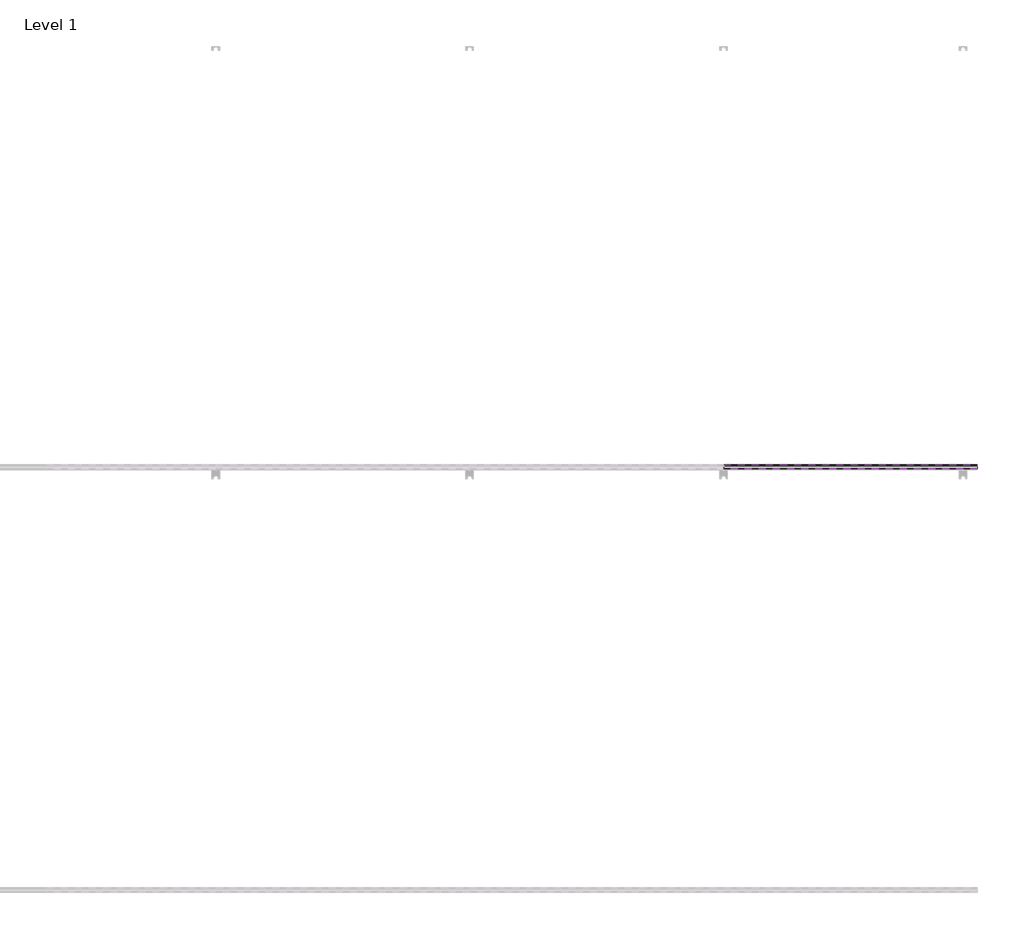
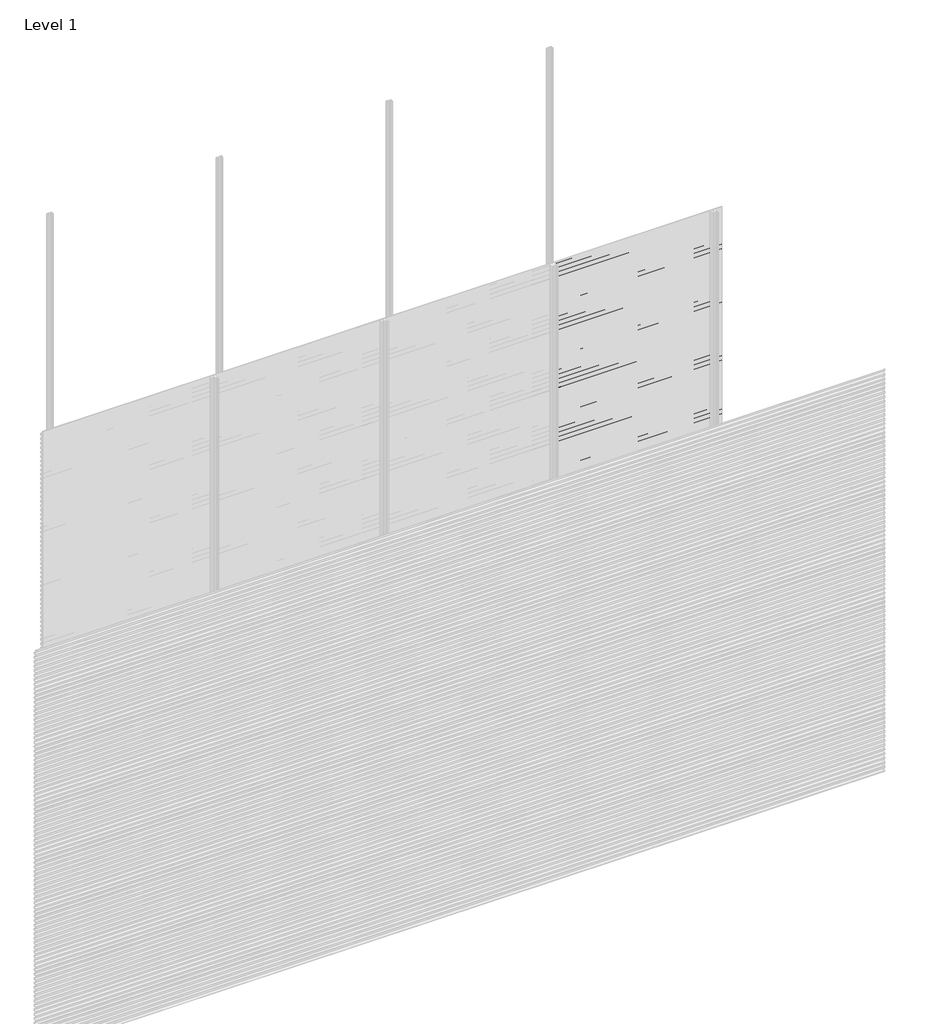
# One storey, part 62 of 77: 72 proxies.
"""IFC4 building model written with IfcOpenShell, lengths in millimetres."""

from ifc_helpers import new_model, si_unit, frame, origin, place, context, project, spatial, polyline, outline, extrude, element, save

model = new_model("IFC4")

# Units and contexts
model_context = context("Model", 3, world=origin())
ifc_project = project(units=[si_unit("LENGTHUNIT", "METRE", prefix="MILLI")], contexts=[model_context])

# Site, building, storey
site = spatial("IfcSite", under=ifc_project)
building = spatial("IfcBuilding", under=site)
storey = spatial("IfcBuildingStorey", under=building, Name="Level 1", Elevation=0.0)

# Proxies
placement = place(None, origin())
element("IfcBuildingElementProxy", 1, Name="Wall Sweeps", at=placement, inside=storey, context=model_context, shape_type="SweptSolid", body=[
    extrude(outline(polyline([(-11978.6, 408.4359887), (-11998.0, 419.6366691), (-11998.0, 432.9), (-11997.0, 432.9), (-11997.0, 420.2191057), (-11977.6, 409.0185105), (-11977.6, 395.4185105), (-11978.6, 396.9953129), (-11978.6, 402.8032062), (-11995.9773817, 394.7), (-11996.4, 395.6063078), (-11978.6, 403.9065841), (-11978.6, 408.4359887)])), frame((3600.0, 0.0, 0.0), z_axis=(1.0, 0.0, 0.0), x_axis=(0.0, 1.0, 0.0)), (0.0, 0.0, 1.0), 1200.0),
])
element("IfcBuildingElementProxy", 2, Name="Wall Sweeps", at=placement, inside=storey, context=model_context, shape_type="SweptSolid", body=[
    extrude(outline(polyline([(-11978.6, 375.1359887), (-11998.0, 386.3366691), (-11998.0, 399.6), (-11997.0, 399.6), (-11997.0, 386.9191057), (-11977.6, 375.7185105), (-11977.6, 362.1185105), (-11978.6, 363.6953129), (-11978.6, 369.5032062), (-11995.9773817, 361.4), (-11996.4, 362.3063078), (-11978.6, 370.6065841), (-11978.6, 375.1359887)])), frame((3600.0, 0.0, 0.0), z_axis=(1.0, 0.0, 0.0), x_axis=(0.0, 1.0, 0.0)), (0.0, 0.0, 1.0), 1200.0),
])
element("IfcBuildingElementProxy", 3, Name="Wall Sweeps", at=placement, inside=storey, context=model_context, shape_type="SweptSolid", body=[
    extrude(outline(polyline([(-11978.6, 341.8359887), (-11998.0, 353.0366691), (-11998.0, 366.3), (-11997.0, 366.3), (-11997.0, 353.6191057), (-11977.6, 342.4185105), (-11977.6, 328.8185105), (-11978.6, 330.3953129), (-11978.6, 336.2032062), (-11995.9773817, 328.1), (-11996.4, 329.0063078), (-11978.6, 337.3065841), (-11978.6, 341.8359887)])), frame((3600.0, 0.0, 0.0), z_axis=(1.0, 0.0, 0.0), x_axis=(0.0, 1.0, 0.0)), (0.0, 0.0, 1.0), 1200.0),
])
element("IfcBuildingElementProxy", 4, Name="Wall Sweeps", at=placement, inside=storey, context=model_context, shape_type="SweptSolid", body=[
    extrude(outline(polyline([(-11978.6, 308.5359887), (-11998.0, 319.7366691), (-11998.0, 333.0), (-11997.0, 333.0), (-11997.0, 320.3191057), (-11977.6, 309.1185105), (-11977.6, 295.5185105), (-11978.6, 297.0953129), (-11978.6, 302.9032062), (-11995.9773817, 294.8), (-11996.4, 295.7063078), (-11978.6, 304.0065841), (-11978.6, 308.5359887)])), frame((3600.0, 0.0, 0.0), z_axis=(1.0, 0.0, 0.0), x_axis=(0.0, 1.0, 0.0)), (0.0, 0.0, 1.0), 1200.0),
])
element("IfcBuildingElementProxy", 5, Name="Wall Sweeps", at=placement, inside=storey, context=model_context, shape_type="SweptSolid", body=[
    extrude(outline(polyline([(-11978.6, 275.2359887), (-11998.0, 286.4366691), (-11998.0, 299.7), (-11997.0, 299.7), (-11997.0, 287.0191057), (-11977.6, 275.8185105), (-11977.6, 262.2185105), (-11978.6, 263.7953129), (-11978.6, 269.6032062), (-11995.9773817, 261.5), (-11996.4, 262.4063078), (-11978.6, 270.7065841), (-11978.6, 275.2359887)])), frame((3600.0, 0.0, 0.0), z_axis=(1.0, 0.0, 0.0), x_axis=(0.0, 1.0, 0.0)), (0.0, 0.0, 1.0), 1200.0),
])
element("IfcBuildingElementProxy", 6, Name="Wall Sweeps", at=placement, inside=storey, context=model_context, shape_type="SweptSolid", body=[
    extrude(outline(polyline([(-11978.6, 241.9359887), (-11998.0, 253.1366691), (-11998.0, 266.4), (-11997.0, 266.4), (-11997.0, 253.7191057), (-11977.6, 242.5185105), (-11977.6, 228.9185105), (-11978.6, 230.4953129), (-11978.6, 236.3032062), (-11995.9773817, 228.2), (-11996.4, 229.1063078), (-11978.6, 237.4065841), (-11978.6, 241.9359887)])), frame((3600.0, 0.0, 0.0), z_axis=(1.0, 0.0, 0.0), x_axis=(0.0, 1.0, 0.0)), (0.0, 0.0, 1.0), 1200.0),
])
element("IfcBuildingElementProxy", 7, Name="Wall Sweeps", at=placement, inside=storey, context=model_context, shape_type="SweptSolid", body=[
    extrude(outline(polyline([(-11978.6, 208.6359887), (-11998.0, 219.8366691), (-11998.0, 233.1), (-11997.0, 233.1), (-11997.0, 220.4191057), (-11977.6, 209.2185105), (-11977.6, 195.6185105), (-11978.6, 197.1953129), (-11978.6, 203.0032062), (-11995.9773817, 194.9), (-11996.4, 195.8063078), (-11978.6, 204.1065841), (-11978.6, 208.6359887)])), frame((3600.0, 0.0, 0.0), z_axis=(1.0, 0.0, 0.0), x_axis=(0.0, 1.0, 0.0)), (0.0, 0.0, 1.0), 1200.0),
])
element("IfcBuildingElementProxy", 8, Name="Wall Sweeps", at=placement, inside=storey, context=model_context, shape_type="SweptSolid", body=[
    extrude(outline(polyline([(-11978.6, 175.3359887), (-11998.0, 186.5366691), (-11998.0, 199.8), (-11997.0, 199.8), (-11997.0, 187.1191057), (-11977.6, 175.9185105), (-11977.6, 162.3185105), (-11978.6, 163.8953129), (-11978.6, 169.7032062), (-11995.9773817, 161.6), (-11996.4, 162.5063078), (-11978.6, 170.8065841), (-11978.6, 175.3359887)])), frame((3600.0, 0.0, 0.0), z_axis=(1.0, 0.0, 0.0), x_axis=(0.0, 1.0, 0.0)), (0.0, 0.0, 1.0), 1200.0),
])
element("IfcBuildingElementProxy", 9, Name="Wall Sweeps", at=placement, inside=storey, context=model_context, shape_type="SweptSolid", body=[
    extrude(outline(polyline([(-11978.6, 142.0359887), (-11998.0, 153.2366691), (-11998.0, 166.5), (-11997.0, 166.5), (-11997.0, 153.8191057), (-11977.6, 142.6185105), (-11977.6, 129.0185105), (-11978.6, 130.5953129), (-11978.6, 136.4032062), (-11995.9773817, 128.3), (-11996.4, 129.2063078), (-11978.6, 137.5065841), (-11978.6, 142.0359887)])), frame((3600.0, 0.0, 0.0), z_axis=(1.0, 0.0, 0.0), x_axis=(0.0, 1.0, 0.0)), (0.0, 0.0, 1.0), 1200.0),
])
element("IfcBuildingElementProxy", 10, Name="Wall Sweeps", at=placement, inside=storey, context=model_context, shape_type="SweptSolid", body=[
    extrude(outline(polyline([(-11978.6, 108.7359887), (-11998.0, 119.9366691), (-11998.0, 133.2), (-11997.0, 133.2), (-11997.0, 120.5191057), (-11977.6, 109.3185105), (-11977.6, 95.7185105), (-11978.6, 97.2953129), (-11978.6, 103.1032062), (-11995.9773817, 95.0), (-11996.4, 95.9063078), (-11978.6, 104.2065841), (-11978.6, 108.7359887)])), frame((3600.0, 0.0, 0.0), z_axis=(1.0, 0.0, 0.0), x_axis=(0.0, 1.0, 0.0)), (0.0, 0.0, 1.0), 1200.0),
])
element("IfcBuildingElementProxy", 11, Name="Wall Sweeps", at=placement, inside=storey, context=model_context, shape_type="SweptSolid", body=[
    extrude(outline(polyline([(-11978.6, 75.4359887), (-11998.0, 86.6366691), (-11998.0, 99.9), (-11997.0, 99.9), (-11997.0, 87.2191057), (-11977.6, 76.0185105), (-11977.6, 62.4185105), (-11978.6, 63.9953129), (-11978.6, 69.8032062), (-11995.9773817, 61.7), (-11996.4, 62.6063078), (-11978.6, 70.9065841), (-11978.6, 75.4359887)])), frame((3600.0, 0.0, 0.0), z_axis=(1.0, 0.0, 0.0), x_axis=(0.0, 1.0, 0.0)), (0.0, 0.0, 1.0), 1200.0),
])
element("IfcBuildingElementProxy", 12, Name="Wall Sweeps", at=placement, inside=storey, context=model_context, shape_type="SweptSolid", body=[
    extrude(outline(polyline([(-11978.6, 42.1359887), (-11998.0, 53.3366691), (-11998.0, 66.6), (-11997.0, 66.6), (-11997.0, 53.9191057), (-11977.6, 42.7185105), (-11977.6, 29.1185105), (-11978.6, 30.6953129), (-11978.6, 36.5032062), (-11995.9773817, 28.4), (-11996.4, 29.3063078), (-11978.6, 37.6065841), (-11978.6, 42.1359887)])), frame((3600.0, 0.0, 0.0), z_axis=(1.0, 0.0, 0.0), x_axis=(0.0, 1.0, 0.0)), (0.0, 0.0, 1.0), 1200.0),
])
element("IfcBuildingElementProxy", 13, Name="Wall Sweeps", at=placement, inside=storey, context=model_context, shape_type="SweptSolid", body=[
    extrude(outline(polyline([(-11978.6, 8.8359887), (-11998.0, 20.0366691), (-11998.0, 33.3), (-11997.0, 33.3), (-11997.0, 20.6191057), (-11977.6, 9.4185105), (-11977.6, -4.1814895), (-11978.6, -2.6046871), (-11978.6, 3.2032062), (-11995.9773817, -4.9), (-11996.4, -3.9936922), (-11978.6, 4.3065841), (-11978.6, 8.8359887)])), frame((3600.0, 0.0, 0.0), z_axis=(1.0, 0.0, 0.0), x_axis=(0.0, 1.0, 0.0)), (0.0, 0.0, 1.0), 1200.0),
])
element("IfcBuildingElementProxy", 14, Name="Wall Sweeps", at=placement, inside=storey, context=model_context, shape_type="SweptSolid", body=[
    extrude(outline(polyline([(-11978.6, 2972.5359887), (-11998.0, 2983.7366691), (-11998.0, 2997.0), (-11997.0, 2997.0), (-11997.0, 2984.3191057), (-11977.6, 2973.1185105), (-11977.6, 2959.5185105), (-11978.6, 2961.0953129), (-11978.6, 2966.9032062), (-11995.9773817, 2958.8), (-11996.4, 2959.7063078), (-11978.6, 2968.0065841), (-11978.6, 2972.5359887)])), frame((4800.0, 0.0, 0.0), z_axis=(1.0, 0.0, 0.0), x_axis=(0.0, 1.0, 0.0)), (0.0, 0.0, 1.0), 1200.0),
])
element("IfcBuildingElementProxy", 15, Name="Wall Sweeps", at=placement, inside=storey, context=model_context, shape_type="SweptSolid", body=[
    extrude(outline(polyline([(-11978.6, 2939.2359887), (-11998.0, 2950.4366691), (-11998.0, 2963.7), (-11997.0, 2963.7), (-11997.0, 2951.0191057), (-11977.6, 2939.8185105), (-11977.6, 2926.2185105), (-11978.6, 2927.7953129), (-11978.6, 2933.6032062), (-11995.9773817, 2925.5), (-11996.4, 2926.4063078), (-11978.6, 2934.7065841), (-11978.6, 2939.2359887)])), frame((4800.0, 0.0, 0.0), z_axis=(1.0, 0.0, 0.0), x_axis=(0.0, 1.0, 0.0)), (0.0, 0.0, 1.0), 1200.0),
])
element("IfcBuildingElementProxy", 16, Name="Wall Sweeps", at=placement, inside=storey, context=model_context, shape_type="SweptSolid", body=[
    extrude(outline(polyline([(-11978.6, 2905.9359887), (-11998.0, 2917.1366691), (-11998.0, 2930.4), (-11997.0, 2930.4), (-11997.0, 2917.7191057), (-11977.6, 2906.5185105), (-11977.6, 2892.9185105), (-11978.6, 2894.4953129), (-11978.6, 2900.3032062), (-11995.9773817, 2892.2), (-11996.4, 2893.1063078), (-11978.6, 2901.4065841), (-11978.6, 2905.9359887)])), frame((4800.0, 0.0, 0.0), z_axis=(1.0, 0.0, 0.0), x_axis=(0.0, 1.0, 0.0)), (0.0, 0.0, 1.0), 1200.0),
])
element("IfcBuildingElementProxy", 17, Name="Wall Sweeps", at=placement, inside=storey, context=model_context, shape_type="SweptSolid", body=[
    extrude(outline(polyline([(-11978.6, 2872.6359887), (-11998.0, 2883.8366691), (-11998.0, 2897.1), (-11997.0, 2897.1), (-11997.0, 2884.4191057), (-11977.6, 2873.2185105), (-11977.6, 2859.6185105), (-11978.6, 2861.1953129), (-11978.6, 2867.0032062), (-11995.9773817, 2858.9), (-11996.4, 2859.8063078), (-11978.6, 2868.1065841), (-11978.6, 2872.6359887)])), frame((4800.0, 0.0, 0.0), z_axis=(1.0, 0.0, 0.0), x_axis=(0.0, 1.0, 0.0)), (0.0, 0.0, 1.0), 1200.0),
])
element("IfcBuildingElementProxy", 18, Name="Wall Sweeps", at=placement, inside=storey, context=model_context, shape_type="SweptSolid", body=[
    extrude(outline(polyline([(-11978.6, 2839.3359887), (-11998.0, 2850.5366691), (-11998.0, 2863.8), (-11997.0, 2863.8), (-11997.0, 2851.1191057), (-11977.6, 2839.9185105), (-11977.6, 2826.3185105), (-11978.6, 2827.8953129), (-11978.6, 2833.7032062), (-11995.9773817, 2825.6), (-11996.4, 2826.5063078), (-11978.6, 2834.8065841), (-11978.6, 2839.3359887)])), frame((4800.0, 0.0, 0.0), z_axis=(1.0, 0.0, 0.0), x_axis=(0.0, 1.0, 0.0)), (0.0, 0.0, 1.0), 1200.0),
])
element("IfcBuildingElementProxy", 19, Name="Wall Sweeps", at=placement, inside=storey, context=model_context, shape_type="SweptSolid", body=[
    extrude(outline(polyline([(-11978.6, 2806.0359887), (-11998.0, 2817.2366691), (-11998.0, 2830.5), (-11997.0, 2830.5), (-11997.0, 2817.8191057), (-11977.6, 2806.6185105), (-11977.6, 2793.0185105), (-11978.6, 2794.5953129), (-11978.6, 2800.4032062), (-11995.9773817, 2792.3), (-11996.4, 2793.2063078), (-11978.6, 2801.5065841), (-11978.6, 2806.0359887)])), frame((4800.0, 0.0, 0.0), z_axis=(1.0, 0.0, 0.0), x_axis=(0.0, 1.0, 0.0)), (0.0, 0.0, 1.0), 1200.0),
])
element("IfcBuildingElementProxy", 20, Name="Wall Sweeps", at=placement, inside=storey, context=model_context, shape_type="SweptSolid", body=[
    extrude(outline(polyline([(-11978.6, 2772.7359887), (-11998.0, 2783.9366691), (-11998.0, 2797.2), (-11997.0, 2797.2), (-11997.0, 2784.5191057), (-11977.6, 2773.3185105), (-11977.6, 2759.7185105), (-11978.6, 2761.2953129), (-11978.6, 2767.1032062), (-11995.9773817, 2759.0), (-11996.4, 2759.9063078), (-11978.6, 2768.2065841), (-11978.6, 2772.7359887)])), frame((4800.0, 0.0, 0.0), z_axis=(1.0, 0.0, 0.0), x_axis=(0.0, 1.0, 0.0)), (0.0, 0.0, 1.0), 1200.0),
])
element("IfcBuildingElementProxy", 21, Name="Wall Sweeps", at=placement, inside=storey, context=model_context, shape_type="SweptSolid", body=[
    extrude(outline(polyline([(-11978.6, 2739.4359887), (-11998.0, 2750.6366691), (-11998.0, 2763.9), (-11997.0, 2763.9), (-11997.0, 2751.2191057), (-11977.6, 2740.0185105), (-11977.6, 2726.4185105), (-11978.6, 2727.9953129), (-11978.6, 2733.8032062), (-11995.9773817, 2725.7), (-11996.4, 2726.6063078), (-11978.6, 2734.9065841), (-11978.6, 2739.4359887)])), frame((4800.0, 0.0, 0.0), z_axis=(1.0, 0.0, 0.0), x_axis=(0.0, 1.0, 0.0)), (0.0, 0.0, 1.0), 1200.0),
])
element("IfcBuildingElementProxy", 22, Name="Wall Sweeps", at=placement, inside=storey, context=model_context, shape_type="SweptSolid", body=[
    extrude(outline(polyline([(-11978.6, 2706.1359887), (-11998.0, 2717.3366691), (-11998.0, 2730.6), (-11997.0, 2730.6), (-11997.0, 2717.9191057), (-11977.6, 2706.7185105), (-11977.6, 2693.1185105), (-11978.6, 2694.6953129), (-11978.6, 2700.5032062), (-11995.9773817, 2692.4), (-11996.4, 2693.3063078), (-11978.6, 2701.6065841), (-11978.6, 2706.1359887)])), frame((4800.0, 0.0, 0.0), z_axis=(1.0, 0.0, 0.0), x_axis=(0.0, 1.0, 0.0)), (0.0, 0.0, 1.0), 1200.0),
])
element("IfcBuildingElementProxy", 23, Name="Wall Sweeps", at=placement, inside=storey, context=model_context, shape_type="SweptSolid", body=[
    extrude(outline(polyline([(-11978.6, 2672.8359887), (-11998.0, 2684.0366691), (-11998.0, 2697.3), (-11997.0, 2697.3), (-11997.0, 2684.6191057), (-11977.6, 2673.4185105), (-11977.6, 2659.8185105), (-11978.6, 2661.3953129), (-11978.6, 2667.2032062), (-11995.9773817, 2659.1), (-11996.4, 2660.0063078), (-11978.6, 2668.3065841), (-11978.6, 2672.8359887)])), frame((4800.0, 0.0, 0.0), z_axis=(1.0, 0.0, 0.0), x_axis=(0.0, 1.0, 0.0)), (0.0, 0.0, 1.0), 1200.0),
])
element("IfcBuildingElementProxy", 24, Name="Wall Sweeps", at=placement, inside=storey, context=model_context, shape_type="SweptSolid", body=[
    extrude(outline(polyline([(-11978.6, 2639.5359887), (-11998.0, 2650.7366691), (-11998.0, 2664.0), (-11997.0, 2664.0), (-11997.0, 2651.3191057), (-11977.6, 2640.1185105), (-11977.6, 2626.5185105), (-11978.6, 2628.0953129), (-11978.6, 2633.9032062), (-11995.9773817, 2625.8), (-11996.4, 2626.7063078), (-11978.6, 2635.0065841), (-11978.6, 2639.5359887)])), frame((4800.0, 0.0, 0.0), z_axis=(1.0, 0.0, 0.0), x_axis=(0.0, 1.0, 0.0)), (0.0, 0.0, 1.0), 1200.0),
])
element("IfcBuildingElementProxy", 25, Name="Wall Sweeps", at=placement, inside=storey, context=model_context, shape_type="SweptSolid", body=[
    extrude(outline(polyline([(-11978.6, 2606.2359887), (-11998.0, 2617.4366691), (-11998.0, 2630.7), (-11997.0, 2630.7), (-11997.0, 2618.0191057), (-11977.6, 2606.8185105), (-11977.6, 2593.2185105), (-11978.6, 2594.7953129), (-11978.6, 2600.6032062), (-11995.9773817, 2592.5), (-11996.4, 2593.4063078), (-11978.6, 2601.7065841), (-11978.6, 2606.2359887)])), frame((4800.0, 0.0, 0.0), z_axis=(1.0, 0.0, 0.0), x_axis=(0.0, 1.0, 0.0)), (0.0, 0.0, 1.0), 1200.0),
])
element("IfcBuildingElementProxy", 26, Name="Wall Sweeps", at=placement, inside=storey, context=model_context, shape_type="SweptSolid", body=[
    extrude(outline(polyline([(-11978.6, 2572.9359887), (-11998.0, 2584.1366691), (-11998.0, 2597.4), (-11997.0, 2597.4), (-11997.0, 2584.7191057), (-11977.6, 2573.5185105), (-11977.6, 2559.9185105), (-11978.6, 2561.4953129), (-11978.6, 2567.3032062), (-11995.9773817, 2559.2), (-11996.4, 2560.1063078), (-11978.6, 2568.4065841), (-11978.6, 2572.9359887)])), frame((4800.0, 0.0, 0.0), z_axis=(1.0, 0.0, 0.0), x_axis=(0.0, 1.0, 0.0)), (0.0, 0.0, 1.0), 1200.0),
])
element("IfcBuildingElementProxy", 27, Name="Wall Sweeps", at=placement, inside=storey, context=model_context, shape_type="SweptSolid", body=[
    extrude(outline(polyline([(-11978.6, 2539.6359887), (-11998.0, 2550.8366691), (-11998.0, 2564.1), (-11997.0, 2564.1), (-11997.0, 2551.4191057), (-11977.6, 2540.2185105), (-11977.6, 2526.6185105), (-11978.6, 2528.1953129), (-11978.6, 2534.0032062), (-11995.9773817, 2525.9), (-11996.4, 2526.8063078), (-11978.6, 2535.1065841), (-11978.6, 2539.6359887)])), frame((4800.0, 0.0, 0.0), z_axis=(1.0, 0.0, 0.0), x_axis=(0.0, 1.0, 0.0)), (0.0, 0.0, 1.0), 1200.0),
])
element("IfcBuildingElementProxy", 28, Name="Wall Sweeps", at=placement, inside=storey, context=model_context, shape_type="SweptSolid", body=[
    extrude(outline(polyline([(-11978.6, 2506.3359887), (-11998.0, 2517.5366691), (-11998.0, 2530.8), (-11997.0, 2530.8), (-11997.0, 2518.1191057), (-11977.6, 2506.9185105), (-11977.6, 2493.3185105), (-11978.6, 2494.8953129), (-11978.6, 2500.7032062), (-11995.9773817, 2492.6), (-11996.4, 2493.5063078), (-11978.6, 2501.8065841), (-11978.6, 2506.3359887)])), frame((4800.0, 0.0, 0.0), z_axis=(1.0, 0.0, 0.0), x_axis=(0.0, 1.0, 0.0)), (0.0, 0.0, 1.0), 1200.0),
])
element("IfcBuildingElementProxy", 29, Name="Wall Sweeps", at=placement, inside=storey, context=model_context, shape_type="SweptSolid", body=[
    extrude(outline(polyline([(-11978.6, 2473.0359887), (-11998.0, 2484.2366691), (-11998.0, 2497.5), (-11997.0, 2497.5), (-11997.0, 2484.8191057), (-11977.6, 2473.6185105), (-11977.6, 2460.0185105), (-11978.6, 2461.5953129), (-11978.6, 2467.4032062), (-11995.9773817, 2459.3), (-11996.4, 2460.2063078), (-11978.6, 2468.5065841), (-11978.6, 2473.0359887)])), frame((4800.0, 0.0, 0.0), z_axis=(1.0, 0.0, 0.0), x_axis=(0.0, 1.0, 0.0)), (0.0, 0.0, 1.0), 1200.0),
])
element("IfcBuildingElementProxy", 30, Name="Wall Sweeps", at=placement, inside=storey, context=model_context, shape_type="SweptSolid", body=[
    extrude(outline(polyline([(-11978.6, 2439.7359887), (-11998.0, 2450.9366691), (-11998.0, 2464.2), (-11997.0, 2464.2), (-11997.0, 2451.5191057), (-11977.6, 2440.3185105), (-11977.6, 2426.7185105), (-11978.6, 2428.2953129), (-11978.6, 2434.1032062), (-11995.9773817, 2426.0), (-11996.4, 2426.9063078), (-11978.6, 2435.2065841), (-11978.6, 2439.7359887)])), frame((4800.0, 0.0, 0.0), z_axis=(1.0, 0.0, 0.0), x_axis=(0.0, 1.0, 0.0)), (0.0, 0.0, 1.0), 1200.0),
])
element("IfcBuildingElementProxy", 31, Name="Wall Sweeps", at=placement, inside=storey, context=model_context, shape_type="SweptSolid", body=[
    extrude(outline(polyline([(-11978.6, 2406.4359887), (-11998.0, 2417.6366691), (-11998.0, 2430.9), (-11997.0, 2430.9), (-11997.0, 2418.2191057), (-11977.6, 2407.0185105), (-11977.6, 2393.4185105), (-11978.6, 2394.9953129), (-11978.6, 2400.8032062), (-11995.9773817, 2392.7), (-11996.4, 2393.6063078), (-11978.6, 2401.9065841), (-11978.6, 2406.4359887)])), frame((4800.0, 0.0, 0.0), z_axis=(1.0, 0.0, 0.0), x_axis=(0.0, 1.0, 0.0)), (0.0, 0.0, 1.0), 1200.0),
])
element("IfcBuildingElementProxy", 32, Name="Wall Sweeps", at=placement, inside=storey, context=model_context, shape_type="SweptSolid", body=[
    extrude(outline(polyline([(-11978.6, 2373.1359887), (-11998.0, 2384.3366691), (-11998.0, 2397.6), (-11997.0, 2397.6), (-11997.0, 2384.9191057), (-11977.6, 2373.7185105), (-11977.6, 2360.1185105), (-11978.6, 2361.6953129), (-11978.6, 2367.5032062), (-11995.9773817, 2359.4), (-11996.4, 2360.3063078), (-11978.6, 2368.6065841), (-11978.6, 2373.1359887)])), frame((4800.0, 0.0, 0.0), z_axis=(1.0, 0.0, 0.0), x_axis=(0.0, 1.0, 0.0)), (0.0, 0.0, 1.0), 1200.0),
])
element("IfcBuildingElementProxy", 33, Name="Wall Sweeps", at=placement, inside=storey, context=model_context, shape_type="SweptSolid", body=[
    extrude(outline(polyline([(-11978.6, 2339.8359887), (-11998.0, 2351.0366691), (-11998.0, 2364.3), (-11997.0, 2364.3), (-11997.0, 2351.6191057), (-11977.6, 2340.4185105), (-11977.6, 2326.8185105), (-11978.6, 2328.3953129), (-11978.6, 2334.2032062), (-11995.9773817, 2326.1), (-11996.4, 2327.0063078), (-11978.6, 2335.3065841), (-11978.6, 2339.8359887)])), frame((4800.0, 0.0, 0.0), z_axis=(1.0, 0.0, 0.0), x_axis=(0.0, 1.0, 0.0)), (0.0, 0.0, 1.0), 1200.0),
])
element("IfcBuildingElementProxy", 34, Name="Wall Sweeps", at=placement, inside=storey, context=model_context, shape_type="SweptSolid", body=[
    extrude(outline(polyline([(-11978.6, 2306.5359887), (-11998.0, 2317.7366691), (-11998.0, 2331.0), (-11997.0, 2331.0), (-11997.0, 2318.3191057), (-11977.6, 2307.1185105), (-11977.6, 2293.5185105), (-11978.6, 2295.0953129), (-11978.6, 2300.9032062), (-11995.9773817, 2292.8), (-11996.4, 2293.7063078), (-11978.6, 2302.0065841), (-11978.6, 2306.5359887)])), frame((4800.0, 0.0, 0.0), z_axis=(1.0, 0.0, 0.0), x_axis=(0.0, 1.0, 0.0)), (0.0, 0.0, 1.0), 1200.0),
])
element("IfcBuildingElementProxy", 35, Name="Wall Sweeps", at=placement, inside=storey, context=model_context, shape_type="SweptSolid", body=[
    extrude(outline(polyline([(-11978.6, 2273.2359887), (-11998.0, 2284.4366691), (-11998.0, 2297.7), (-11997.0, 2297.7), (-11997.0, 2285.0191057), (-11977.6, 2273.8185105), (-11977.6, 2260.2185105), (-11978.6, 2261.7953129), (-11978.6, 2267.6032062), (-11995.9773817, 2259.5), (-11996.4, 2260.4063078), (-11978.6, 2268.7065841), (-11978.6, 2273.2359887)])), frame((4800.0, 0.0, 0.0), z_axis=(1.0, 0.0, 0.0), x_axis=(0.0, 1.0, 0.0)), (0.0, 0.0, 1.0), 1200.0),
])
element("IfcBuildingElementProxy", 36, Name="Wall Sweeps", at=placement, inside=storey, context=model_context, shape_type="SweptSolid", body=[
    extrude(outline(polyline([(-11978.6, 2239.9359887), (-11998.0, 2251.1366691), (-11998.0, 2264.4), (-11997.0, 2264.4), (-11997.0, 2251.7191057), (-11977.6, 2240.5185105), (-11977.6, 2226.9185105), (-11978.6, 2228.4953129), (-11978.6, 2234.3032062), (-11995.9773817, 2226.2), (-11996.4, 2227.1063078), (-11978.6, 2235.4065841), (-11978.6, 2239.9359887)])), frame((4800.0, 0.0, 0.0), z_axis=(1.0, 0.0, 0.0), x_axis=(0.0, 1.0, 0.0)), (0.0, 0.0, 1.0), 1200.0),
])
element("IfcBuildingElementProxy", 37, Name="Wall Sweeps", at=placement, inside=storey, context=model_context, shape_type="SweptSolid", body=[
    extrude(outline(polyline([(-11978.6, 2206.6359887), (-11998.0, 2217.8366691), (-11998.0, 2231.1), (-11997.0, 2231.1), (-11997.0, 2218.4191057), (-11977.6, 2207.2185105), (-11977.6, 2193.6185105), (-11978.6, 2195.1953129), (-11978.6, 2201.0032062), (-11995.9773817, 2192.9), (-11996.4, 2193.8063078), (-11978.6, 2202.1065841), (-11978.6, 2206.6359887)])), frame((4800.0, 0.0, 0.0), z_axis=(1.0, 0.0, 0.0), x_axis=(0.0, 1.0, 0.0)), (0.0, 0.0, 1.0), 1200.0),
])
element("IfcBuildingElementProxy", 38, Name="Wall Sweeps", at=placement, inside=storey, context=model_context, shape_type="SweptSolid", body=[
    extrude(outline(polyline([(-11978.6, 2173.3359887), (-11998.0, 2184.5366691), (-11998.0, 2197.8), (-11997.0, 2197.8), (-11997.0, 2185.1191057), (-11977.6, 2173.9185105), (-11977.6, 2160.3185105), (-11978.6, 2161.8953129), (-11978.6, 2167.7032062), (-11995.9773817, 2159.6), (-11996.4, 2160.5063078), (-11978.6, 2168.8065841), (-11978.6, 2173.3359887)])), frame((4800.0, 0.0, 0.0), z_axis=(1.0, 0.0, 0.0), x_axis=(0.0, 1.0, 0.0)), (0.0, 0.0, 1.0), 1200.0),
])
element("IfcBuildingElementProxy", 39, Name="Wall Sweeps", at=placement, inside=storey, context=model_context, shape_type="SweptSolid", body=[
    extrude(outline(polyline([(-11978.6, 2140.0359887), (-11998.0, 2151.2366691), (-11998.0, 2164.5), (-11997.0, 2164.5), (-11997.0, 2151.8191057), (-11977.6, 2140.6185105), (-11977.6, 2127.0185105), (-11978.6, 2128.5953129), (-11978.6, 2134.4032062), (-11995.9773817, 2126.3), (-11996.4, 2127.2063078), (-11978.6, 2135.5065841), (-11978.6, 2140.0359887)])), frame((4800.0, 0.0, 0.0), z_axis=(1.0, 0.0, 0.0), x_axis=(0.0, 1.0, 0.0)), (0.0, 0.0, 1.0), 1200.0),
])
element("IfcBuildingElementProxy", 40, Name="Wall Sweeps", at=placement, inside=storey, context=model_context, shape_type="SweptSolid", body=[
    extrude(outline(polyline([(-11978.6, 2106.7359887), (-11998.0, 2117.9366691), (-11998.0, 2131.2), (-11997.0, 2131.2), (-11997.0, 2118.5191057), (-11977.6, 2107.3185105), (-11977.6, 2093.7185105), (-11978.6, 2095.2953129), (-11978.6, 2101.1032062), (-11995.9773817, 2093.0), (-11996.4, 2093.9063078), (-11978.6, 2102.2065841), (-11978.6, 2106.7359887)])), frame((4800.0, 0.0, 0.0), z_axis=(1.0, 0.0, 0.0), x_axis=(0.0, 1.0, 0.0)), (0.0, 0.0, 1.0), 1200.0),
])
element("IfcBuildingElementProxy", 41, Name="Wall Sweeps", at=placement, inside=storey, context=model_context, shape_type="SweptSolid", body=[
    extrude(outline(polyline([(-11978.6, 2073.4359887), (-11998.0, 2084.6366691), (-11998.0, 2097.9), (-11997.0, 2097.9), (-11997.0, 2085.2191057), (-11977.6, 2074.0185105), (-11977.6, 2060.4185105), (-11978.6, 2061.9953129), (-11978.6, 2067.8032062), (-11995.9773817, 2059.7), (-11996.4, 2060.6063078), (-11978.6, 2068.9065841), (-11978.6, 2073.4359887)])), frame((4800.0, 0.0, 0.0), z_axis=(1.0, 0.0, 0.0), x_axis=(0.0, 1.0, 0.0)), (0.0, 0.0, 1.0), 1200.0),
])
element("IfcBuildingElementProxy", 42, Name="Wall Sweeps", at=placement, inside=storey, context=model_context, shape_type="SweptSolid", body=[
    extrude(outline(polyline([(-11978.6, 2040.1359887), (-11998.0, 2051.3366691), (-11998.0, 2064.6), (-11997.0, 2064.6), (-11997.0, 2051.9191057), (-11977.6, 2040.7185105), (-11977.6, 2027.1185105), (-11978.6, 2028.6953129), (-11978.6, 2034.5032062), (-11995.9773817, 2026.4), (-11996.4, 2027.3063078), (-11978.6, 2035.6065841), (-11978.6, 2040.1359887)])), frame((4800.0, 0.0, 0.0), z_axis=(1.0, 0.0, 0.0), x_axis=(0.0, 1.0, 0.0)), (0.0, 0.0, 1.0), 1200.0),
])
element("IfcBuildingElementProxy", 43, Name="Wall Sweeps", at=placement, inside=storey, context=model_context, shape_type="SweptSolid", body=[
    extrude(outline(polyline([(-11978.6, 2006.8359887), (-11998.0, 2018.0366691), (-11998.0, 2031.3), (-11997.0, 2031.3), (-11997.0, 2018.6191057), (-11977.6, 2007.4185105), (-11977.6, 1993.8185105), (-11978.6, 1995.3953129), (-11978.6, 2001.2032062), (-11995.9773817, 1993.1), (-11996.4, 1994.0063078), (-11978.6, 2002.3065841), (-11978.6, 2006.8359887)])), frame((4800.0, 0.0, 0.0), z_axis=(1.0, 0.0, 0.0), x_axis=(0.0, 1.0, 0.0)), (0.0, 0.0, 1.0), 1200.0),
])
element("IfcBuildingElementProxy", 44, Name="Wall Sweeps", at=placement, inside=storey, context=model_context, shape_type="SweptSolid", body=[
    extrude(outline(polyline([(-11978.6, 1973.5359887), (-11998.0, 1984.7366691), (-11998.0, 1998.0), (-11997.0, 1998.0), (-11997.0, 1985.3191057), (-11977.6, 1974.1185105), (-11977.6, 1960.5185105), (-11978.6, 1962.0953129), (-11978.6, 1967.9032062), (-11995.9773817, 1959.8), (-11996.4, 1960.7063078), (-11978.6, 1969.0065841), (-11978.6, 1973.5359887)])), frame((4800.0, 0.0, 0.0), z_axis=(1.0, 0.0, 0.0), x_axis=(0.0, 1.0, 0.0)), (0.0, 0.0, 1.0), 1200.0),
])
element("IfcBuildingElementProxy", 45, Name="Wall Sweeps", at=placement, inside=storey, context=model_context, shape_type="SweptSolid", body=[
    extrude(outline(polyline([(-11978.6, 1940.2359887), (-11998.0, 1951.4366691), (-11998.0, 1964.7), (-11997.0, 1964.7), (-11997.0, 1952.0191057), (-11977.6, 1940.8185105), (-11977.6, 1927.2185105), (-11978.6, 1928.7953129), (-11978.6, 1934.6032062), (-11995.9773817, 1926.5), (-11996.4, 1927.4063078), (-11978.6, 1935.7065841), (-11978.6, 1940.2359887)])), frame((4800.0, 0.0, 0.0), z_axis=(1.0, 0.0, 0.0), x_axis=(0.0, 1.0, 0.0)), (0.0, 0.0, 1.0), 1200.0),
])
element("IfcBuildingElementProxy", 46, Name="Wall Sweeps", at=placement, inside=storey, context=model_context, shape_type="SweptSolid", body=[
    extrude(outline(polyline([(-11978.6, 1906.9359887), (-11998.0, 1918.1366691), (-11998.0, 1931.4), (-11997.0, 1931.4), (-11997.0, 1918.7191057), (-11977.6, 1907.5185105), (-11977.6, 1893.9185105), (-11978.6, 1895.4953129), (-11978.6, 1901.3032062), (-11995.9773817, 1893.2), (-11996.4, 1894.1063078), (-11978.6, 1902.4065841), (-11978.6, 1906.9359887)])), frame((4800.0, 0.0, 0.0), z_axis=(1.0, 0.0, 0.0), x_axis=(0.0, 1.0, 0.0)), (0.0, 0.0, 1.0), 1200.0),
])
element("IfcBuildingElementProxy", 47, Name="Wall Sweeps", at=placement, inside=storey, context=model_context, shape_type="SweptSolid", body=[
    extrude(outline(polyline([(-11978.6, 1873.6359887), (-11998.0, 1884.8366691), (-11998.0, 1898.1), (-11997.0, 1898.1), (-11997.0, 1885.4191057), (-11977.6, 1874.2185105), (-11977.6, 1860.6185105), (-11978.6, 1862.1953129), (-11978.6, 1868.0032062), (-11995.9773817, 1859.9), (-11996.4, 1860.8063078), (-11978.6, 1869.1065841), (-11978.6, 1873.6359887)])), frame((4800.0, 0.0, 0.0), z_axis=(1.0, 0.0, 0.0), x_axis=(0.0, 1.0, 0.0)), (0.0, 0.0, 1.0), 1200.0),
])
element("IfcBuildingElementProxy", 48, Name="Wall Sweeps", at=placement, inside=storey, context=model_context, shape_type="SweptSolid", body=[
    extrude(outline(polyline([(-11978.6, 1840.3359887), (-11998.0, 1851.5366691), (-11998.0, 1864.8), (-11997.0, 1864.8), (-11997.0, 1852.1191057), (-11977.6, 1840.9185105), (-11977.6, 1827.3185105), (-11978.6, 1828.8953129), (-11978.6, 1834.7032062), (-11995.9773817, 1826.6), (-11996.4, 1827.5063078), (-11978.6, 1835.8065841), (-11978.6, 1840.3359887)])), frame((4800.0, 0.0, 0.0), z_axis=(1.0, 0.0, 0.0), x_axis=(0.0, 1.0, 0.0)), (0.0, 0.0, 1.0), 1200.0),
])
element("IfcBuildingElementProxy", 49, Name="Wall Sweeps", at=placement, inside=storey, context=model_context, shape_type="SweptSolid", body=[
    extrude(outline(polyline([(-11978.6, 1807.0359887), (-11998.0, 1818.2366691), (-11998.0, 1831.5), (-11997.0, 1831.5), (-11997.0, 1818.8191057), (-11977.6, 1807.6185105), (-11977.6, 1794.0185105), (-11978.6, 1795.5953129), (-11978.6, 1801.4032062), (-11995.9773817, 1793.3), (-11996.4, 1794.2063078), (-11978.6, 1802.5065841), (-11978.6, 1807.0359887)])), frame((4800.0, 0.0, 0.0), z_axis=(1.0, 0.0, 0.0), x_axis=(0.0, 1.0, 0.0)), (0.0, 0.0, 1.0), 1200.0),
])
element("IfcBuildingElementProxy", 50, Name="Wall Sweeps", at=placement, inside=storey, context=model_context, shape_type="SweptSolid", body=[
    extrude(outline(polyline([(-11978.6, 1773.7359887), (-11998.0, 1784.9366691), (-11998.0, 1798.2), (-11997.0, 1798.2), (-11997.0, 1785.5191057), (-11977.6, 1774.3185105), (-11977.6, 1760.7185105), (-11978.6, 1762.2953129), (-11978.6, 1768.1032062), (-11995.9773817, 1760.0), (-11996.4, 1760.9063078), (-11978.6, 1769.2065841), (-11978.6, 1773.7359887)])), frame((4800.0, 0.0, 0.0), z_axis=(1.0, 0.0, 0.0), x_axis=(0.0, 1.0, 0.0)), (0.0, 0.0, 1.0), 1200.0),
])
element("IfcBuildingElementProxy", 51, Name="Wall Sweeps", at=placement, inside=storey, context=model_context, shape_type="SweptSolid", body=[
    extrude(outline(polyline([(-11978.6, 1740.4359887), (-11998.0, 1751.6366691), (-11998.0, 1764.9), (-11997.0, 1764.9), (-11997.0, 1752.2191057), (-11977.6, 1741.0185105), (-11977.6, 1727.4185105), (-11978.6, 1728.9953129), (-11978.6, 1734.8032062), (-11995.9773817, 1726.7), (-11996.4, 1727.6063078), (-11978.6, 1735.9065841), (-11978.6, 1740.4359887)])), frame((4800.0, 0.0, 0.0), z_axis=(1.0, 0.0, 0.0), x_axis=(0.0, 1.0, 0.0)), (0.0, 0.0, 1.0), 1200.0),
])
element("IfcBuildingElementProxy", 52, Name="Wall Sweeps", at=placement, inside=storey, context=model_context, shape_type="SweptSolid", body=[
    extrude(outline(polyline([(-11978.6, 1707.1359887), (-11998.0, 1718.3366691), (-11998.0, 1731.6), (-11997.0, 1731.6), (-11997.0, 1718.9191057), (-11977.6, 1707.7185105), (-11977.6, 1694.1185105), (-11978.6, 1695.6953129), (-11978.6, 1701.5032062), (-11995.9773817, 1693.4), (-11996.4, 1694.3063078), (-11978.6, 1702.6065841), (-11978.6, 1707.1359887)])), frame((4800.0, 0.0, 0.0), z_axis=(1.0, 0.0, 0.0), x_axis=(0.0, 1.0, 0.0)), (0.0, 0.0, 1.0), 1200.0),
])
element("IfcBuildingElementProxy", 53, Name="Wall Sweeps", at=placement, inside=storey, context=model_context, shape_type="SweptSolid", body=[
    extrude(outline(polyline([(-11978.6, 1673.8359887), (-11998.0, 1685.0366691), (-11998.0, 1698.3), (-11997.0, 1698.3), (-11997.0, 1685.6191057), (-11977.6, 1674.4185105), (-11977.6, 1660.8185105), (-11978.6, 1662.3953129), (-11978.6, 1668.2032062), (-11995.9773817, 1660.1), (-11996.4, 1661.0063078), (-11978.6, 1669.3065841), (-11978.6, 1673.8359887)])), frame((4800.0, 0.0, 0.0), z_axis=(1.0, 0.0, 0.0), x_axis=(0.0, 1.0, 0.0)), (0.0, 0.0, 1.0), 1200.0),
])
element("IfcBuildingElementProxy", 54, Name="Wall Sweeps", at=placement, inside=storey, context=model_context, shape_type="SweptSolid", body=[
    extrude(outline(polyline([(-11978.6, 1640.5359887), (-11998.0, 1651.7366691), (-11998.0, 1665.0), (-11997.0, 1665.0), (-11997.0, 1652.3191057), (-11977.6, 1641.1185105), (-11977.6, 1627.5185105), (-11978.6, 1629.0953129), (-11978.6, 1634.9032062), (-11995.9773817, 1626.8), (-11996.4, 1627.7063078), (-11978.6, 1636.0065841), (-11978.6, 1640.5359887)])), frame((4800.0, 0.0, 0.0), z_axis=(1.0, 0.0, 0.0), x_axis=(0.0, 1.0, 0.0)), (0.0, 0.0, 1.0), 1200.0),
])
element("IfcBuildingElementProxy", 55, Name="Wall Sweeps", at=placement, inside=storey, context=model_context, shape_type="SweptSolid", body=[
    extrude(outline(polyline([(-11978.6, 1607.2359887), (-11998.0, 1618.4366691), (-11998.0, 1631.7), (-11997.0, 1631.7), (-11997.0, 1619.0191057), (-11977.6, 1607.8185105), (-11977.6, 1594.2185105), (-11978.6, 1595.7953129), (-11978.6, 1601.6032062), (-11995.9773817, 1593.5), (-11996.4, 1594.4063078), (-11978.6, 1602.7065841), (-11978.6, 1607.2359887)])), frame((4800.0, 0.0, 0.0), z_axis=(1.0, 0.0, 0.0), x_axis=(0.0, 1.0, 0.0)), (0.0, 0.0, 1.0), 1200.0),
])
element("IfcBuildingElementProxy", 56, Name="Wall Sweeps", at=placement, inside=storey, context=model_context, shape_type="SweptSolid", body=[
    extrude(outline(polyline([(-11978.6, 1573.9359887), (-11998.0, 1585.1366691), (-11998.0, 1598.4), (-11997.0, 1598.4), (-11997.0, 1585.7191057), (-11977.6, 1574.5185105), (-11977.6, 1560.9185105), (-11978.6, 1562.4953129), (-11978.6, 1568.3032062), (-11995.9773817, 1560.2), (-11996.4, 1561.1063078), (-11978.6, 1569.4065841), (-11978.6, 1573.9359887)])), frame((4800.0, 0.0, 0.0), z_axis=(1.0, 0.0, 0.0), x_axis=(0.0, 1.0, 0.0)), (0.0, 0.0, 1.0), 1200.0),
])
element("IfcBuildingElementProxy", 57, Name="Wall Sweeps", at=placement, inside=storey, context=model_context, shape_type="SweptSolid", body=[
    extrude(outline(polyline([(-11978.6, 1540.6359887), (-11998.0, 1551.8366691), (-11998.0, 1565.1), (-11997.0, 1565.1), (-11997.0, 1552.4191057), (-11977.6, 1541.2185105), (-11977.6, 1527.6185105), (-11978.6, 1529.1953129), (-11978.6, 1535.0032062), (-11995.9773817, 1526.9), (-11996.4, 1527.8063078), (-11978.6, 1536.1065841), (-11978.6, 1540.6359887)])), frame((4800.0, 0.0, 0.0), z_axis=(1.0, 0.0, 0.0), x_axis=(0.0, 1.0, 0.0)), (0.0, 0.0, 1.0), 1200.0),
])
element("IfcBuildingElementProxy", 58, Name="Wall Sweeps", at=placement, inside=storey, context=model_context, shape_type="SweptSolid", body=[
    extrude(outline(polyline([(-11978.6, 1507.3359887), (-11998.0, 1518.5366691), (-11998.0, 1531.8), (-11997.0, 1531.8), (-11997.0, 1519.1191057), (-11977.6, 1507.9185105), (-11977.6, 1494.3185105), (-11978.6, 1495.8953129), (-11978.6, 1501.7032062), (-11995.9773817, 1493.6), (-11996.4, 1494.5063078), (-11978.6, 1502.8065841), (-11978.6, 1507.3359887)])), frame((4800.0, 0.0, 0.0), z_axis=(1.0, 0.0, 0.0), x_axis=(0.0, 1.0, 0.0)), (0.0, 0.0, 1.0), 1200.0),
])
element("IfcBuildingElementProxy", 59, Name="Wall Sweeps", at=placement, inside=storey, context=model_context, shape_type="SweptSolid", body=[
    extrude(outline(polyline([(-11978.6, 1474.0359887), (-11998.0, 1485.2366691), (-11998.0, 1498.5), (-11997.0, 1498.5), (-11997.0, 1485.8191057), (-11977.6, 1474.6185105), (-11977.6, 1461.0185105), (-11978.6, 1462.5953129), (-11978.6, 1468.4032062), (-11995.9773817, 1460.3), (-11996.4, 1461.2063078), (-11978.6, 1469.5065841), (-11978.6, 1474.0359887)])), frame((4800.0, 0.0, 0.0), z_axis=(1.0, 0.0, 0.0), x_axis=(0.0, 1.0, 0.0)), (0.0, 0.0, 1.0), 1200.0),
])
element("IfcBuildingElementProxy", 60, Name="Wall Sweeps", at=placement, inside=storey, context=model_context, shape_type="SweptSolid", body=[
    extrude(outline(polyline([(-11978.6, 1440.7359887), (-11998.0, 1451.9366691), (-11998.0, 1465.2), (-11997.0, 1465.2), (-11997.0, 1452.5191057), (-11977.6, 1441.3185105), (-11977.6, 1427.7185105), (-11978.6, 1429.2953129), (-11978.6, 1435.1032062), (-11995.9773817, 1427.0), (-11996.4, 1427.9063078), (-11978.6, 1436.2065841), (-11978.6, 1440.7359887)])), frame((4800.0, 0.0, 0.0), z_axis=(1.0, 0.0, 0.0), x_axis=(0.0, 1.0, 0.0)), (0.0, 0.0, 1.0), 1200.0),
])
element("IfcBuildingElementProxy", 61, Name="Wall Sweeps", at=placement, inside=storey, context=model_context, shape_type="SweptSolid", body=[
    extrude(outline(polyline([(-11978.6, 1407.4359887), (-11998.0, 1418.6366691), (-11998.0, 1431.9), (-11997.0, 1431.9), (-11997.0, 1419.2191057), (-11977.6, 1408.0185105), (-11977.6, 1394.4185105), (-11978.6, 1395.9953129), (-11978.6, 1401.8032062), (-11995.9773817, 1393.7), (-11996.4, 1394.6063078), (-11978.6, 1402.9065841), (-11978.6, 1407.4359887)])), frame((4800.0, 0.0, 0.0), z_axis=(1.0, 0.0, 0.0), x_axis=(0.0, 1.0, 0.0)), (0.0, 0.0, 1.0), 1200.0),
])
element("IfcBuildingElementProxy", 62, Name="Wall Sweeps", at=placement, inside=storey, context=model_context, shape_type="SweptSolid", body=[
    extrude(outline(polyline([(-11978.6, 1374.1359887), (-11998.0, 1385.3366691), (-11998.0, 1398.6), (-11997.0, 1398.6), (-11997.0, 1385.9191057), (-11977.6, 1374.7185105), (-11977.6, 1361.1185105), (-11978.6, 1362.6953129), (-11978.6, 1368.5032062), (-11995.9773817, 1360.4), (-11996.4, 1361.3063078), (-11978.6, 1369.6065841), (-11978.6, 1374.1359887)])), frame((4800.0, 0.0, 0.0), z_axis=(1.0, 0.0, 0.0), x_axis=(0.0, 1.0, 0.0)), (0.0, 0.0, 1.0), 1200.0),
])
element("IfcBuildingElementProxy", 63, Name="Wall Sweeps", at=placement, inside=storey, context=model_context, shape_type="SweptSolid", body=[
    extrude(outline(polyline([(-11978.6, 1340.8359887), (-11998.0, 1352.0366691), (-11998.0, 1365.3), (-11997.0, 1365.3), (-11997.0, 1352.6191057), (-11977.6, 1341.4185105), (-11977.6, 1327.8185105), (-11978.6, 1329.3953129), (-11978.6, 1335.2032062), (-11995.9773817, 1327.1), (-11996.4, 1328.0063078), (-11978.6, 1336.3065841), (-11978.6, 1340.8359887)])), frame((4800.0, 0.0, 0.0), z_axis=(1.0, 0.0, 0.0), x_axis=(0.0, 1.0, 0.0)), (0.0, 0.0, 1.0), 1200.0),
])
element("IfcBuildingElementProxy", 64, Name="Wall Sweeps", at=placement, inside=storey, context=model_context, shape_type="SweptSolid", body=[
    extrude(outline(polyline([(-11978.6, 1307.5359887), (-11998.0, 1318.7366691), (-11998.0, 1332.0), (-11997.0, 1332.0), (-11997.0, 1319.3191057), (-11977.6, 1308.1185105), (-11977.6, 1294.5185105), (-11978.6, 1296.0953129), (-11978.6, 1301.9032062), (-11995.9773817, 1293.8), (-11996.4, 1294.7063078), (-11978.6, 1303.0065841), (-11978.6, 1307.5359887)])), frame((4800.0, 0.0, 0.0), z_axis=(1.0, 0.0, 0.0), x_axis=(0.0, 1.0, 0.0)), (0.0, 0.0, 1.0), 1200.0),
])
element("IfcBuildingElementProxy", 65, Name="Wall Sweeps", at=placement, inside=storey, context=model_context, shape_type="SweptSolid", body=[
    extrude(outline(polyline([(-11978.6, 1274.2359887), (-11998.0, 1285.4366691), (-11998.0, 1298.7), (-11997.0, 1298.7), (-11997.0, 1286.0191057), (-11977.6, 1274.8185105), (-11977.6, 1261.2185105), (-11978.6, 1262.7953129), (-11978.6, 1268.6032062), (-11995.9773817, 1260.5), (-11996.4, 1261.4063078), (-11978.6, 1269.7065841), (-11978.6, 1274.2359887)])), frame((4800.0, 0.0, 0.0), z_axis=(1.0, 0.0, 0.0), x_axis=(0.0, 1.0, 0.0)), (0.0, 0.0, 1.0), 1200.0),
])
element("IfcBuildingElementProxy", 66, Name="Wall Sweeps", at=placement, inside=storey, context=model_context, shape_type="SweptSolid", body=[
    extrude(outline(polyline([(-11978.6, 1240.9359887), (-11998.0, 1252.1366691), (-11998.0, 1265.4), (-11997.0, 1265.4), (-11997.0, 1252.7191057), (-11977.6, 1241.5185105), (-11977.6, 1227.9185105), (-11978.6, 1229.4953129), (-11978.6, 1235.3032062), (-11995.9773817, 1227.2), (-11996.4, 1228.1063078), (-11978.6, 1236.4065841), (-11978.6, 1240.9359887)])), frame((4800.0, 0.0, 0.0), z_axis=(1.0, 0.0, 0.0), x_axis=(0.0, 1.0, 0.0)), (0.0, 0.0, 1.0), 1200.0),
])
element("IfcBuildingElementProxy", 67, Name="Wall Sweeps", at=placement, inside=storey, context=model_context, shape_type="SweptSolid", body=[
    extrude(outline(polyline([(-11978.6, 1207.6359887), (-11998.0, 1218.8366691), (-11998.0, 1232.1), (-11997.0, 1232.1), (-11997.0, 1219.4191057), (-11977.6, 1208.2185105), (-11977.6, 1194.6185105), (-11978.6, 1196.1953129), (-11978.6, 1202.0032062), (-11995.9773817, 1193.9), (-11996.4, 1194.8063078), (-11978.6, 1203.1065841), (-11978.6, 1207.6359887)])), frame((4800.0, 0.0, 0.0), z_axis=(1.0, 0.0, 0.0), x_axis=(0.0, 1.0, 0.0)), (0.0, 0.0, 1.0), 1200.0),
])
element("IfcBuildingElementProxy", 68, Name="Wall Sweeps", at=placement, inside=storey, context=model_context, shape_type="SweptSolid", body=[
    extrude(outline(polyline([(-11978.6, 1174.3359887), (-11998.0, 1185.5366691), (-11998.0, 1198.8), (-11997.0, 1198.8), (-11997.0, 1186.1191057), (-11977.6, 1174.9185105), (-11977.6, 1161.3185105), (-11978.6, 1162.8953129), (-11978.6, 1168.7032062), (-11995.9773817, 1160.6), (-11996.4, 1161.5063078), (-11978.6, 1169.8065841), (-11978.6, 1174.3359887)])), frame((4800.0, 0.0, 0.0), z_axis=(1.0, 0.0, 0.0), x_axis=(0.0, 1.0, 0.0)), (0.0, 0.0, 1.0), 1200.0),
])
element("IfcBuildingElementProxy", 69, Name="Wall Sweeps", at=placement, inside=storey, context=model_context, shape_type="SweptSolid", body=[
    extrude(outline(polyline([(-11978.6, 1141.0359887), (-11998.0, 1152.2366691), (-11998.0, 1165.5), (-11997.0, 1165.5), (-11997.0, 1152.8191057), (-11977.6, 1141.6185105), (-11977.6, 1128.0185105), (-11978.6, 1129.5953129), (-11978.6, 1135.4032062), (-11995.9773817, 1127.3), (-11996.4, 1128.2063078), (-11978.6, 1136.5065841), (-11978.6, 1141.0359887)])), frame((4800.0, 0.0, 0.0), z_axis=(1.0, 0.0, 0.0), x_axis=(0.0, 1.0, 0.0)), (0.0, 0.0, 1.0), 1200.0),
])
element("IfcBuildingElementProxy", 70, Name="Wall Sweeps", at=placement, inside=storey, context=model_context, shape_type="SweptSolid", body=[
    extrude(outline(polyline([(-11978.6, 1107.7359887), (-11998.0, 1118.9366691), (-11998.0, 1132.2), (-11997.0, 1132.2), (-11997.0, 1119.5191057), (-11977.6, 1108.3185105), (-11977.6, 1094.7185105), (-11978.6, 1096.2953129), (-11978.6, 1102.1032062), (-11995.9773817, 1094.0), (-11996.4, 1094.9063078), (-11978.6, 1103.2065841), (-11978.6, 1107.7359887)])), frame((4800.0, 0.0, 0.0), z_axis=(1.0, 0.0, 0.0), x_axis=(0.0, 1.0, 0.0)), (0.0, 0.0, 1.0), 1200.0),
])
element("IfcBuildingElementProxy", 71, Name="Wall Sweeps", at=placement, inside=storey, context=model_context, shape_type="SweptSolid", body=[
    extrude(outline(polyline([(-11978.6, 1074.4359887), (-11998.0, 1085.6366691), (-11998.0, 1098.9), (-11997.0, 1098.9), (-11997.0, 1086.2191057), (-11977.6, 1075.0185105), (-11977.6, 1061.4185105), (-11978.6, 1062.9953129), (-11978.6, 1068.8032062), (-11995.9773817, 1060.7), (-11996.4, 1061.6063078), (-11978.6, 1069.9065841), (-11978.6, 1074.4359887)])), frame((4800.0, 0.0, 0.0), z_axis=(1.0, 0.0, 0.0), x_axis=(0.0, 1.0, 0.0)), (0.0, 0.0, 1.0), 1200.0),
])
element("IfcBuildingElementProxy", 72, Name="Wall Sweeps", at=placement, inside=storey, context=model_context, shape_type="SweptSolid", body=[
    extrude(outline(polyline([(-11978.6, 1041.1359887), (-11998.0, 1052.3366691), (-11998.0, 1065.6), (-11997.0, 1065.6), (-11997.0, 1052.9191057), (-11977.6, 1041.7185105), (-11977.6, 1028.1185105), (-11978.6, 1029.6953129), (-11978.6, 1035.5032062), (-11995.9773817, 1027.4), (-11996.4, 1028.3063078), (-11978.6, 1036.6065841), (-11978.6, 1041.1359887)])), frame((4800.0, 0.0, 0.0), z_axis=(1.0, 0.0, 0.0), x_axis=(0.0, 1.0, 0.0)), (0.0, 0.0, 1.0), 1200.0),
])

save(model, "model.ifc")
